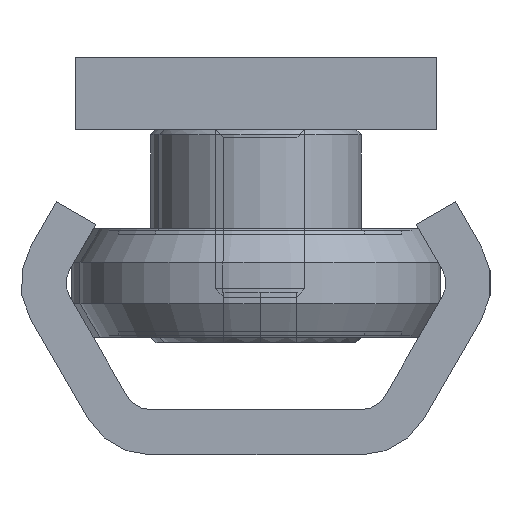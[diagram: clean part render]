
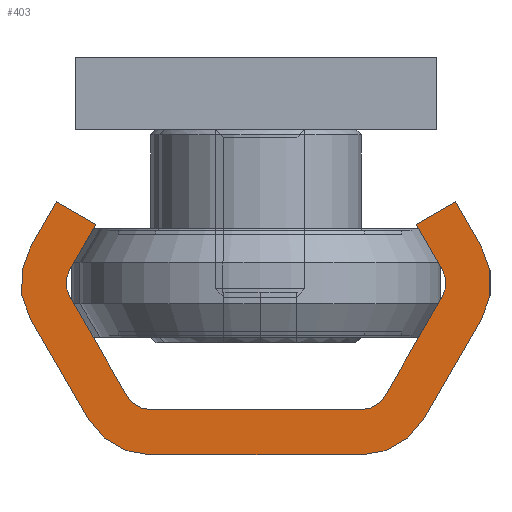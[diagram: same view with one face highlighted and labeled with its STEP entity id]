
A CAD part, left-side view. The second image highlights one B-rep face of the part: STEP entity #403.
In plain terms, the highlighted planar face has unit normal (-1, 0, 0).
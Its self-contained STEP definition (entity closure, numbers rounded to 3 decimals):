
#403 = ADVANCED_FACE( '', ( #899 ), #900, .F. );
#899 = FACE_OUTER_BOUND( '', #1763, .T. );
#900 = PLANE( '', #1764 );
#1763 = EDGE_LOOP( '', ( #2845, #2846, #2847, #2848, #2849, #2850, #2851, #2852, #2853, #2854, #2855, #2856, #2857, #2858, #2859, #2860, #2861, #2862, #2863, #2864 ) );
#1764 = AXIS2_PLACEMENT_3D( '', #2865, #2866, #2867 );
#2845 = ORIENTED_EDGE( '', *, *, #4257, .F. );
#2846 = ORIENTED_EDGE( '', *, *, #4258, .F. );
#2847 = ORIENTED_EDGE( '', *, *, #4252, .F. );
#2848 = ORIENTED_EDGE( '', *, *, #4259, .F. );
#2849 = ORIENTED_EDGE( '', *, *, #4260, .F. );
#2850 = ORIENTED_EDGE( '', *, *, #4261, .F. );
#2851 = ORIENTED_EDGE( '', *, *, #4240, .F. );
#2852 = ORIENTED_EDGE( '', *, *, #4262, .T. );
#2853 = ORIENTED_EDGE( '', *, *, #4263, .F. );
#2854 = ORIENTED_EDGE( '', *, *, #4264, .T. );
#2855 = ORIENTED_EDGE( '', *, *, #4265, .F. );
#2856 = ORIENTED_EDGE( '', *, *, #4266, .T. );
#2857 = ORIENTED_EDGE( '', *, *, #4235, .F. );
#2858 = ORIENTED_EDGE( '', *, *, #4267, .T. );
#2859 = ORIENTED_EDGE( '', *, *, #4268, .F. );
#2860 = ORIENTED_EDGE( '', *, *, #4269, .F. );
#2861 = ORIENTED_EDGE( '', *, *, #4270, .F. );
#2862 = ORIENTED_EDGE( '', *, *, #4271, .F. );
#2863 = ORIENTED_EDGE( '', *, *, #4272, .F. );
#2864 = ORIENTED_EDGE( '', *, *, #4273, .F. );
#2865 = CARTESIAN_POINT( '', ( 0., -5.825, -4. ) );
#2866 = DIRECTION( '', ( 1., 0., 0. ) );
#2867 = DIRECTION( '', ( 0., 0., -1. ) );
#4235 = EDGE_CURVE( '', #4855, #4856, #4857, .T. );
#4240 = EDGE_CURVE( '', #4864, #4865, #4866, .T. );
#4252 = EDGE_CURVE( '', #4884, #4885, #4886, .T. );
#4257 = EDGE_CURVE( '', #4893, #4894, #4895, .T. );
#4258 = EDGE_CURVE( '', #4885, #4893, #4896, .T. );
#4259 = EDGE_CURVE( '', #4897, #4884, #4898, .T. );
#4260 = EDGE_CURVE( '', #4899, #4897, #4900, .T. );
#4261 = EDGE_CURVE( '', #4865, #4899, #4901, .T. );
#4262 = EDGE_CURVE( '', #4864, #4902, #4903, .T. );
#4263 = EDGE_CURVE( '', #4904, #4902, #4905, .T. );
#4264 = EDGE_CURVE( '', #4904, #4906, #4907, .T. );
#4265 = EDGE_CURVE( '', #4908, #4906, #4909, .T. );
#4266 = EDGE_CURVE( '', #4908, #4856, #4910, .T. );
#4267 = EDGE_CURVE( '', #4855, #4911, #4912, .T. );
#4268 = EDGE_CURVE( '', #4913, #4911, #4914, .T. );
#4269 = EDGE_CURVE( '', #4915, #4913, #4916, .T. );
#4270 = EDGE_CURVE( '', #4917, #4915, #4918, .T. );
#4271 = EDGE_CURVE( '', #4919, #4917, #4920, .T. );
#4272 = EDGE_CURVE( '', #4921, #4919, #4922, .T. );
#4273 = EDGE_CURVE( '', #4894, #4921, #4923, .T. );
#4855 = VERTEX_POINT( '', #5719 );
#4856 = VERTEX_POINT( '', #5720 );
#4857 = LINE( '', #5721, #5722 );
#4864 = VERTEX_POINT( '', #5732 );
#4865 = VERTEX_POINT( '', #5733 );
#4866 = LINE( '', #5734, #5735 );
#4884 = VERTEX_POINT( '', #5759 );
#4885 = VERTEX_POINT( '', #5760 );
#4886 = LINE( '', #5761, #5762 );
#4893 = VERTEX_POINT( '', #5772 );
#4894 = VERTEX_POINT( '', #5773 );
#4895 = LINE( '', #5774, #5775 );
#4896 = CIRCLE( '', #5776, 4. );
#4897 = VERTEX_POINT( '', #5777 );
#4898 = CIRCLE( '', #5778, 4. );
#4899 = VERTEX_POINT( '', #5779 );
#4900 = LINE( '', #5780, #5781 );
#4901 = LINE( '', #5782, #5783 );
#4902 = VERTEX_POINT( '', #5784 );
#4903 = CIRCLE( '', #5785, 1.5 );
#4904 = VERTEX_POINT( '', #5786 );
#4905 = LINE( '', #5787, #5788 );
#4906 = VERTEX_POINT( '', #5789 );
#4907 = CIRCLE( '', #5790, 1.5 );
#4908 = VERTEX_POINT( '', #5791 );
#4909 = LINE( '', #5792, #5793 );
#4910 = CIRCLE( '', #5794, 1.5 );
#4911 = VERTEX_POINT( '', #5795 );
#4912 = CIRCLE( '', #5796, 1.5 );
#4913 = VERTEX_POINT( '', #5797 );
#4914 = LINE( '', #5798, #5799 );
#4915 = VERTEX_POINT( '', #5800 );
#4916 = LINE( '', #5801, #5802 );
#4917 = VERTEX_POINT( '', #5803 );
#4918 = LINE( '', #5804, #5805 );
#4919 = VERTEX_POINT( '', #5806 );
#4920 = CIRCLE( '', #5807, 4. );
#4921 = VERTEX_POINT( '', #5808 );
#4922 = LINE( '', #5809, #5810 );
#4923 = CIRCLE( '', #5811, 4. );
#5719 = CARTESIAN_POINT( '', ( 0., -10.299, -8.75 ) );
#5720 = CARTESIAN_POINT( '', ( 0., -7.124, -3.25 ) );
#5721 = CARTESIAN_POINT( '', ( 0., -10.299, -8.75 ) );
#5722 = VECTOR( '', #6687, 1000. );
#5732 = CARTESIAN_POINT( '', ( 0., 10.299, -10.25 ) );
#5733 = CARTESIAN_POINT( '', ( 0., 8.856, -12.75 ) );
#5734 = CARTESIAN_POINT( '', ( 0., 10.299, -10.25 ) );
#5735 = VECTOR( '', #6691, 1000. );
#5759 = CARTESIAN_POINT( '', ( 0., 12.464, -7.5 ) );
#5760 = CARTESIAN_POINT( '', ( 0., 9.289, -2. ) );
#5761 = CARTESIAN_POINT( '', ( 0., 12.464, -7.5 ) );
#5762 = VECTOR( '', #6704, 1000. );
#5772 = CARTESIAN_POINT( '', ( 0., 5.825, 0. ) );
#5773 = CARTESIAN_POINT( '', ( 0., -5.825, 0. ) );
#5774 = CARTESIAN_POINT( '', ( 0., 5.825, 0. ) );
#5775 = VECTOR( '', #6708, 1000. );
#5776 = AXIS2_PLACEMENT_3D( '', #6709, #6710, #6711 );
#5777 = CARTESIAN_POINT( '', ( 0., 12.464, -11.5 ) );
#5778 = AXIS2_PLACEMENT_3D( '', #6712, #6713, #6714 );
#5779 = CARTESIAN_POINT( '', ( 0., 11.021, -14. ) );
#5780 = CARTESIAN_POINT( '', ( 0., 11.021, -14. ) );
#5781 = VECTOR( '', #6715, 1000. );
#5782 = CARTESIAN_POINT( '', ( 0., 8.856, -12.75 ) );
#5783 = VECTOR( '', #6716, 1000. );
#5784 = CARTESIAN_POINT( '', ( 0., 10.299, -8.75 ) );
#5785 = AXIS2_PLACEMENT_3D( '', #6717, #6718, #6719 );
#5786 = CARTESIAN_POINT( '', ( 0., 7.124, -3.25 ) );
#5787 = CARTESIAN_POINT( '', ( 0., 7.124, -3.25 ) );
#5788 = VECTOR( '', #6720, 1000. );
#5789 = CARTESIAN_POINT( '', ( 0., 5.825, -2.5 ) );
#5790 = AXIS2_PLACEMENT_3D( '', #6721, #6722, #6723 );
#5791 = CARTESIAN_POINT( '', ( 0., -5.825, -2.5 ) );
#5792 = CARTESIAN_POINT( '', ( 0., -5.825, -2.5 ) );
#5793 = VECTOR( '', #6724, 1000. );
#5794 = AXIS2_PLACEMENT_3D( '', #6725, #6726, #6727 );
#5795 = CARTESIAN_POINT( '', ( 0., -10.299, -10.25 ) );
#5796 = AXIS2_PLACEMENT_3D( '', #6728, #6729, #6730 );
#5797 = CARTESIAN_POINT( '', ( 0., -8.856, -12.75 ) );
#5798 = CARTESIAN_POINT( '', ( 0., -8.856, -12.75 ) );
#5799 = VECTOR( '', #6731, 1000. );
#5800 = CARTESIAN_POINT( '', ( 0., -11.021, -14. ) );
#5801 = CARTESIAN_POINT( '', ( 0., -11.021, -14. ) );
#5802 = VECTOR( '', #6732, 1000. );
#5803 = CARTESIAN_POINT( '', ( 0., -12.464, -11.5 ) );
#5804 = CARTESIAN_POINT( '', ( 0., -12.464, -11.5 ) );
#5805 = VECTOR( '', #6733, 1000. );
#5806 = CARTESIAN_POINT( '', ( 0., -12.464, -7.5 ) );
#5807 = AXIS2_PLACEMENT_3D( '', #6734, #6735, #6736 );
#5808 = CARTESIAN_POINT( '', ( 0., -9.289, -2. ) );
#5809 = CARTESIAN_POINT( '', ( 0., -9.289, -2. ) );
#5810 = VECTOR( '', #6737, 1000. );
#5811 = AXIS2_PLACEMENT_3D( '', #6738, #6739, #6740 );
#6687 = DIRECTION( '', ( 0., 0.5, 0.866 ) );
#6691 = DIRECTION( '', ( 0., -0.5, -0.866 ) );
#6704 = DIRECTION( '', ( 0., -0.5, 0.866 ) );
#6708 = DIRECTION( '', ( 0., -1., 0. ) );
#6709 = CARTESIAN_POINT( '', ( 0., 5.825, -4. ) );
#6710 = DIRECTION( '', ( 1., 0., 0. ) );
#6711 = DIRECTION( '', ( 0., 0., -1. ) );
#6712 = CARTESIAN_POINT( '', ( 0., 9., -9.5 ) );
#6713 = DIRECTION( '', ( 1., 0., 0. ) );
#6714 = DIRECTION( '', ( 0., 0., -1. ) );
#6715 = DIRECTION( '', ( 0., 0.5, 0.866 ) );
#6716 = DIRECTION( '', ( 0., 0.866, -0.5 ) );
#6717 = CARTESIAN_POINT( '', ( 0., 9., -9.5 ) );
#6718 = DIRECTION( '', ( 1., 0., 0. ) );
#6719 = DIRECTION( '', ( 0., 0., -1. ) );
#6720 = DIRECTION( '', ( 0., 0.5, -0.866 ) );
#6721 = CARTESIAN_POINT( '', ( 0., 5.825, -4. ) );
#6722 = DIRECTION( '', ( 1., 0., 0. ) );
#6723 = DIRECTION( '', ( 0., 0., -1. ) );
#6724 = DIRECTION( '', ( 0., 1., 0. ) );
#6725 = CARTESIAN_POINT( '', ( 0., -5.825, -4. ) );
#6726 = DIRECTION( '', ( 1., 0., 0. ) );
#6727 = DIRECTION( '', ( 0., 0., -1. ) );
#6728 = CARTESIAN_POINT( '', ( 0., -9., -9.5 ) );
#6729 = DIRECTION( '', ( 1., 0., 0. ) );
#6730 = DIRECTION( '', ( 0., 0., -1. ) );
#6731 = DIRECTION( '', ( 0., -0.5, 0.866 ) );
#6732 = DIRECTION( '', ( 0., 0.866, 0.5 ) );
#6733 = DIRECTION( '', ( 0., 0.5, -0.866 ) );
#6734 = CARTESIAN_POINT( '', ( 0., -9., -9.5 ) );
#6735 = DIRECTION( '', ( 1., 0., 0. ) );
#6736 = DIRECTION( '', ( 0., 0., -1. ) );
#6737 = DIRECTION( '', ( 0., -0.5, -0.866 ) );
#6738 = CARTESIAN_POINT( '', ( 0., -5.825, -4. ) );
#6739 = DIRECTION( '', ( 1., 0., 0. ) );
#6740 = DIRECTION( '', ( 0., 0., -1. ) );
